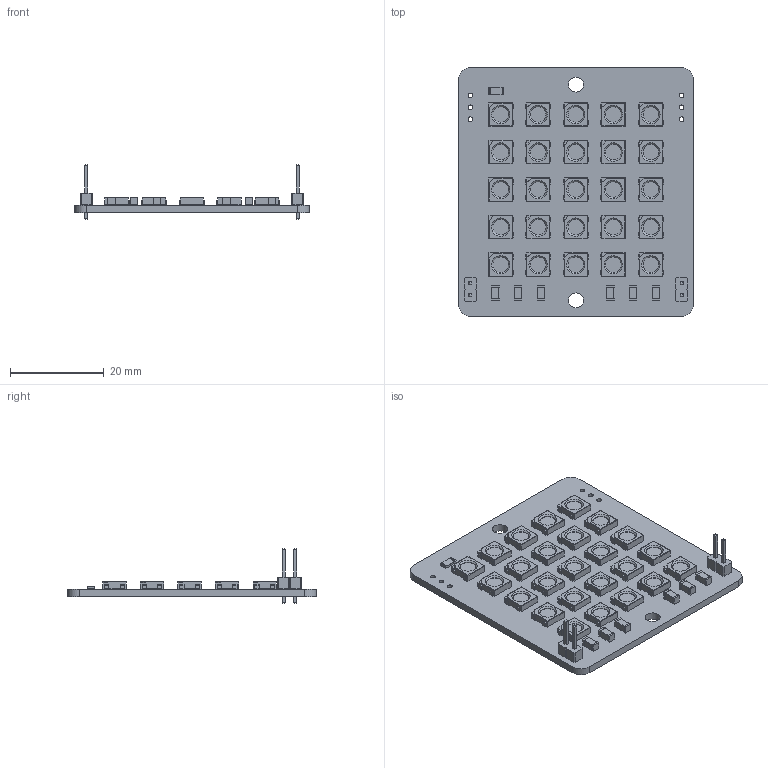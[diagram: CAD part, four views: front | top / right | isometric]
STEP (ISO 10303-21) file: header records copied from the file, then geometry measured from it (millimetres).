
FILE_DESCRIPTION(('KiCad electronic assembly'),'2;1');
FILE_NAME('Neo7SegmentMini.step','2025-01-28T13:51:37',('Pcbnew'),( 'Kicad'),'Open CASCADE STEP processor 7.8','KiCad to STEP converter' ,'Unknown');
FILE_SCHEMA(('AUTOMOTIVE_DESIGN { 1 0 10303 214 1 1 1 1 }'));
Length unit declared in the file: millimetre
Products named in the file (10): Neo7SegmentMini 1; C_1206_3216Metric; LED_WS2812B_PLCC4_5.0x5.0mm_P3.2mm; LED_WS2812B_PLCC4_50x50mm_P32mm; PinHeader_1x02_P2.54mm_Vertical; PinHeader_1x02_P254mm_Vertical; R_1206_3216Metric; Neo7SegmentMini_PCB
Assembly tree (39 placements, depth 3):
  Neo7SegmentMini 1
    C_1206_3216Metric  x6
      C_1206_3216Metric
    LED_WS2812B_PLCC4_5.0x5.0mm_P3.2mm  x25
      LED_WS2812B_PLCC4_50x50mm_P32mm
    PinHeader_1x02_P2.54mm_Vertical  x2
      PinHeader_1x02_P254mm_Vertical
    R_1206_3216Metric
      R_1206_3216Metric
    Neo7SegmentMini_PCB
Bounding box: 50 x 53 x 11.54 mm (x, y, z)
Volume: 5175.7 mm3; surface area: 8310.8 mm2
Topology: 35 solids, 35 shells, 2020 faces, 5829 edges, 3824 vertices
Faces by surface type: plane 1349, cylinder 646, cone 25
Full cylindrical faces by diameter (mm): 1 x10, 3.2 x2, 3.333 x25
Entity records: 7758 total; most frequent: DIRECTION 1107, CARTESIAN_POINT 1099, ORIENTED_EDGE 1046, EDGE_CURVE 523, LINE 411, VECTOR 411, AXIS2_PLACEMENT_3D 348, VERTEX_POINT 340
